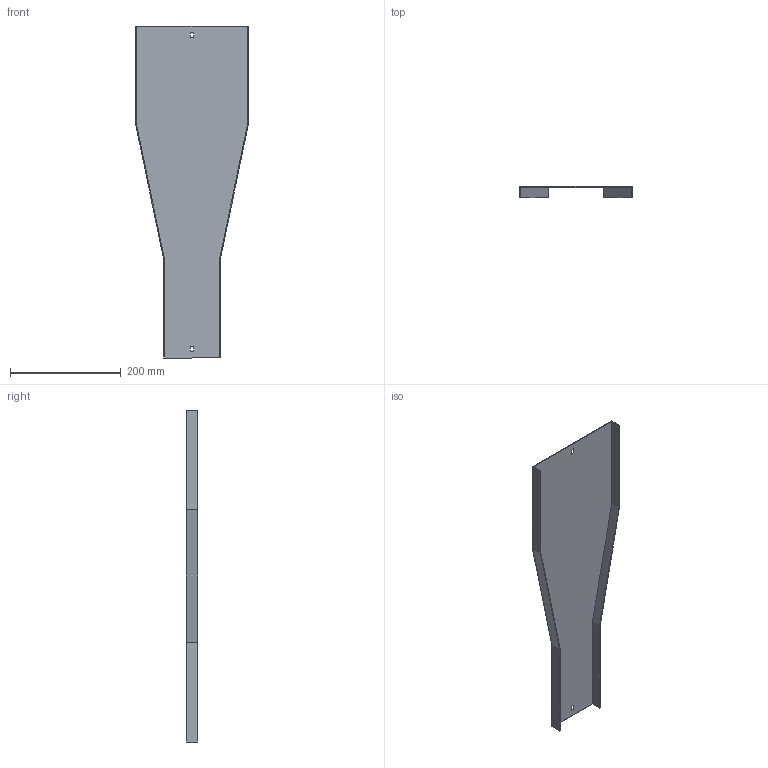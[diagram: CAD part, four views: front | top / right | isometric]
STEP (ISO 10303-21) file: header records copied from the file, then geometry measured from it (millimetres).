
FILE_DESCRIPTION (( 'STEP AP214' ), '1' );
FILE_NAME ('B2X20N1R200X.step', '2025-09-02T15:43:49', ( '' ), ( '' ), 'SwSTEP 2.0', 'SolidWorks 2023', '' );
FILE_SCHEMA (( 'AUTOMOTIVE_DESIGN' ));
Length unit declared in the file: millimetre
Products named in the file (1): B2X20N1R200X
Bounding box: 203 x 20 x 600 mm (x, y, z)
Volume: 171110.5 mm3; surface area: 230625.8 mm2
Topology: 1 solids, 1 shells, 26 faces, 72 edges, 48 vertices
Faces by surface type: plane 26
Entity records: 847 total; most frequent: CARTESIAN_POINT 147, ORIENTED_EDGE 144, DIRECTION 126, LINE 72, VECTOR 72, EDGE_CURVE 72, VERTEX_POINT 48, EDGE_LOOP 30
